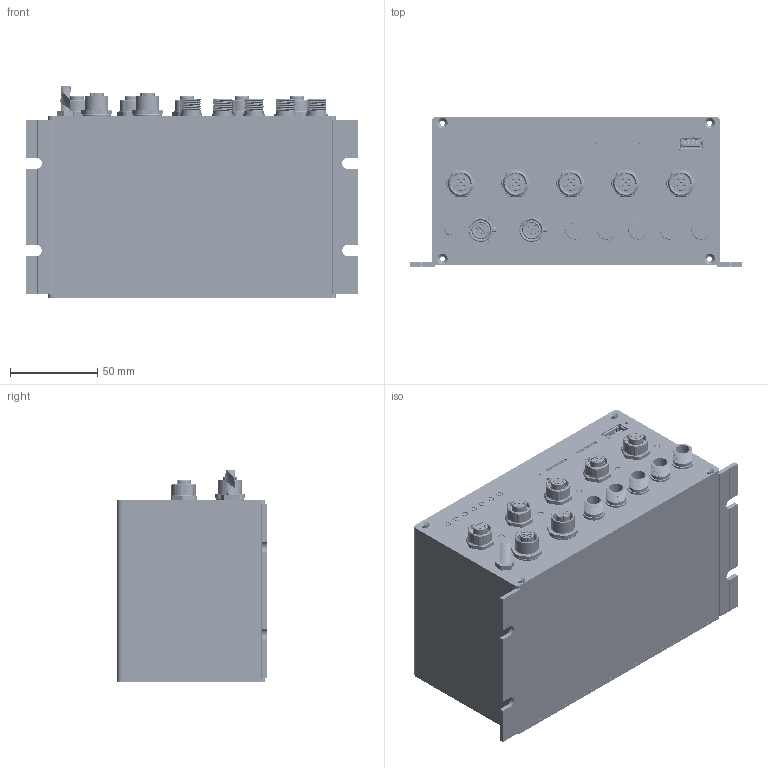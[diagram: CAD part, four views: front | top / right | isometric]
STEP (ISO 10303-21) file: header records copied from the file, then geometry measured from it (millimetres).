
FILE_DESCRIPTION(/* description */ ('Alibre Inc.'),/* implementation_level */ '2;1');
FILE_NAME(/* name */ 'export0',/* time_stamp */ '2016-06-21T15:25:24+02:00',/* author */ (''),/* organization */ (''),/* preprocessor_version */ 'ST-DEVELOPER v12',/* originating_system */ 'Alibre',/* authorisation */ '');
FILE_SCHEMA (('AUTOMOTIVE_DESIGN'));
Length unit declared in the file: centimetre
Products named in the file (183): SACC-E-FS-4CON-M16_05_SW0001; SACC-E-FS-8CON-M16_05_SW0001
Bounding box: 190 x 85.68 x 121 mm (x, y, z)
Volume: 377497.6 mm3; surface area: 368037 mm2
Topology: 194 solids, 194 shells, 21312 faces, 61011 edges, 40090 vertices
Faces by surface type: plane 15688, cylinder 4594, bspline 378, cone 332, torus 283, sphere 37
Full cylindrical faces by diameter (mm): 0.3 x12, 0.7 x128, 0.9 x6, 1 x53, 1.1 x12, 1.2 x30, 1.3 x20, 1.5 x7, 1.6 x7, 1.8 x6, 2.013 x2, 2.1 x10, 2.35 x4, 2.4 x2, 2.6 x28, 2.8 x2, 2.9 x10, 3 x21, 3.2 x9, 3.6 x12, 4 x5, 6 x2, 6.2 x1, 8 x5, 11 x80, 12.5 x5, 14 x1, 20 x5
Entity records: 376930 total; most frequent: CARTESIAN_POINT 89154, ORIENTED_EDGE 62804, DIRECTION 49943, EDGE_CURVE 31402, VECTOR 26032, LINE 26032, VERTEX_POINT 20636, AXIS2_PLACEMENT_3D 15996
